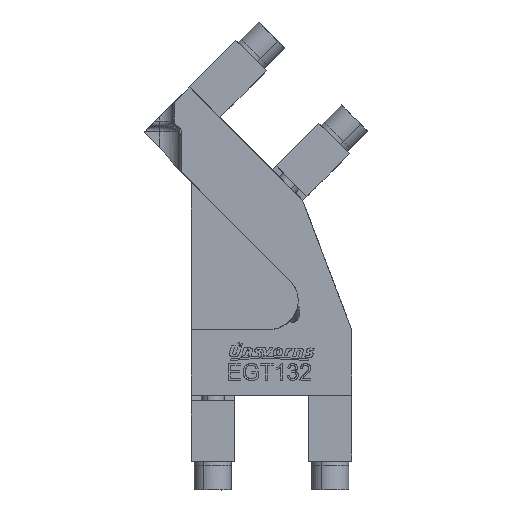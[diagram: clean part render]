
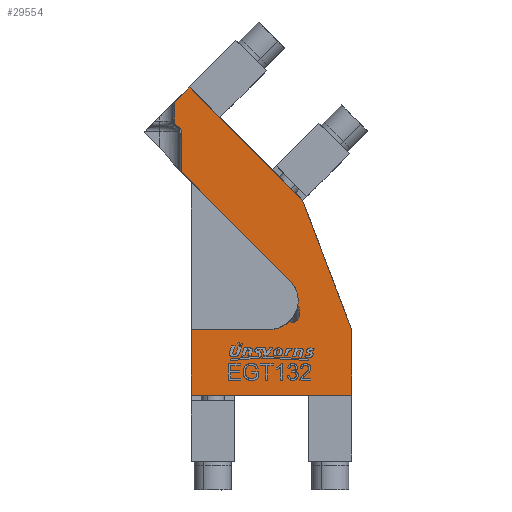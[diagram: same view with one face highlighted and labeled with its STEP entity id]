
A CAD part, left-side view. The second image highlights one B-rep face of the part: STEP entity #29554.
In plain terms, the highlighted planar face has unit normal (-1, 0, 0).
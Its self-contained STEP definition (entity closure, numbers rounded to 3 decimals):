
#27662=CARTESIAN_POINT('Vertex',(-29.,-6.457,40.071)) ;
#27665=CARTESIAN_POINT('Line Origine',(-29.,12.522,59.049)) ;
#27669=CARTESIAN_POINT('Vertex',(-29.,31.5,78.028)) ;
#29034=CARTESIAN_POINT('Vertex',(-29.,28.,0.)) ;
#29037=CARTESIAN_POINT('Line Origine',(-29.,28.,11.5)) ;
#29041=CARTESIAN_POINT('Vertex',(-29.,28.,23.)) ;
#29258=CARTESIAN_POINT('Vertex',(-29.,0.615,23.)) ;
#29261=CARTESIAN_POINT('Axis2P3D Location',(-29.,0.615,33.)) ;
#29265=CARTESIAN_POINT('Vertex',(-29.,-6.411,25.883)) ;
#29306=CARTESIAN_POINT('Vertex',(-29.,-9.261,31.426)) ;
#29309=CARTESIAN_POINT('Axis2P3D Location',(-29.,0.615,33.)) ;
#29432=CARTESIAN_POINT('Axis2P3D Location',(-29.,0.,0.)) ;
#29438=CARTESIAN_POINT('Control Point',(-29.,-8.679,25.949)) ;
#29439=CARTESIAN_POINT('Control Point',(-29.,-8.871,26.098)) ;
#29440=CARTESIAN_POINT('Control Point',(-29.,-9.045,26.271)) ;
#29441=CARTESIAN_POINT('Control Point',(-29.,-9.198,26.462)) ;
#29442=CARTESIAN_POINT('Control Point',(-29.,-9.555,27.004)) ;
#29443=CARTESIAN_POINT('Control Point',(-29.,-9.784,27.614)) ;
#29444=CARTESIAN_POINT('Control Point',(-29.,-9.882,28.007)) ;
#29445=CARTESIAN_POINT('Control Point',(-29.,-9.984,28.722)) ;
#29446=CARTESIAN_POINT('Control Point',(-29.,-9.954,29.442)) ;
#29447=CARTESIAN_POINT('Control Point',(-29.,-9.916,29.757)) ;
#29448=CARTESIAN_POINT('Control Point',(-29.,-9.804,30.298)) ;
#29449=CARTESIAN_POINT('Control Point',(-29.,-9.608,30.814)) ;
#29450=CARTESIAN_POINT('Control Point',(-29.,-9.509,31.028)) ;
#29451=CARTESIAN_POINT('Control Point',(-29.,-9.394,31.233)) ;
#29452=CARTESIAN_POINT('Control Point',(-29.,-9.261,31.426)) ;
#29453=CARTESIAN_POINT('Vertex',(-29.,-8.679,25.949)) ;
#29457=CARTESIAN_POINT('Control Point',(-29.,-6.411,25.883)) ;
#29458=CARTESIAN_POINT('Control Point',(-29.,-6.575,25.768)) ;
#29459=CARTESIAN_POINT('Control Point',(-29.,-6.752,25.672)) ;
#29460=CARTESIAN_POINT('Control Point',(-29.,-6.94,25.597)) ;
#29461=CARTESIAN_POINT('Control Point',(-29.,-7.33,25.503)) ;
#29462=CARTESIAN_POINT('Control Point',(-29.,-7.73,25.521)) ;
#29463=CARTESIAN_POINT('Control Point',(-29.,-7.925,25.559)) ;
#29464=CARTESIAN_POINT('Control Point',(-29.,-8.199,25.652)) ;
#29465=CARTESIAN_POINT('Control Point',(-29.,-8.452,25.791)) ;
#29466=CARTESIAN_POINT('Control Point',(-29.,-8.531,25.84)) ;
#29467=CARTESIAN_POINT('Control Point',(-29.,-8.606,25.893)) ;
#29468=CARTESIAN_POINT('Control Point',(-29.,-8.679,25.949)) ;
#29470=CARTESIAN_POINT('Line Origine',(-29.,14.307,23.)) ;
#29475=CARTESIAN_POINT('Line Origine',(-29.,0.,0.)) ;
#29479=CARTESIAN_POINT('Vertex',(-29.,-28.,0.)) ;
#29482=CARTESIAN_POINT('Line Origine',(-29.,-28.,11.5)) ;
#29486=CARTESIAN_POINT('Vertex',(-29.,-28.,23.)) ;
#29489=CARTESIAN_POINT('Line Origine',(-29.,-19.443,45.584)) ;
#29493=CARTESIAN_POINT('Vertex',(-29.,-10.886,68.168)) ;
#29496=CARTESIAN_POINT('Line Origine',(-29.,8.876,87.93)) ;
#29500=CARTESIAN_POINT('Vertex',(-29.,28.638,107.692)) ;
#29503=CARTESIAN_POINT('Line Origine',(-29.,31.319,105.011)) ;
#29507=CARTESIAN_POINT('Vertex',(-29.,34.,102.33)) ;
#29510=CARTESIAN_POINT('Line Origine',(-29.,34.,99.051)) ;
#29514=CARTESIAN_POINT('Vertex',(-29.,34.,95.772)) ;
#29517=CARTESIAN_POINT('Axis2P3D Location',(-29.,32.,95.772)) ;
#29521=CARTESIAN_POINT('Vertex',(-29.,32.75,93.918)) ;
#29524=CARTESIAN_POINT('Axis2P3D Location',(-29.,33.5,92.064)) ;
#29528=CARTESIAN_POINT('Vertex',(-29.,31.5,92.064)) ;
#29531=CARTESIAN_POINT('Line Origine',(-29.,31.5,85.046)) ;
#27666=DIRECTION('Vector Direction',(0.,-0.707,-0.707)) ;
#29038=DIRECTION('Vector Direction',(0.,0.,1.)) ;
#29262=DIRECTION('Axis2P3D Direction',(1.,0.,0.)) ;
#29310=DIRECTION('Axis2P3D Direction',(1.,0.,0.)) ;
#29433=DIRECTION('Axis2P3D Direction',(1.,0.,0.)) ;
#29434=DIRECTION('Axis2P3D XDirection',(0.,1.,0.)) ;
#29471=DIRECTION('Vector Direction',(0.,-1.,0.)) ;
#29476=DIRECTION('Vector Direction',(0.,1.,0.)) ;
#29483=DIRECTION('Vector Direction',(0.,0.,1.)) ;
#29490=DIRECTION('Vector Direction',(0.,-0.354,-0.935)) ;
#29497=DIRECTION('Vector Direction',(0.,-0.707,-0.707)) ;
#29504=DIRECTION('Vector Direction',(0.,-0.707,0.707)) ;
#29511=DIRECTION('Vector Direction',(0.,0.,-1.)) ;
#29518=DIRECTION('Axis2P3D Direction',(1.,0.,0.)) ;
#29525=DIRECTION('Axis2P3D Direction',(1.,0.,0.)) ;
#29532=DIRECTION('Vector Direction',(0.,0.,1.)) ;
#29263=AXIS2_PLACEMENT_3D('Circle Axis2P3D',#29261,#29262,$) ;
#29311=AXIS2_PLACEMENT_3D('Circle Axis2P3D',#29309,#29310,$) ;
#29435=AXIS2_PLACEMENT_3D('Plane Axis2P3D',#29432,#29433,#29434) ;
#29519=AXIS2_PLACEMENT_3D('Circle Axis2P3D',#29517,#29518,$) ;
#29526=AXIS2_PLACEMENT_3D('Circle Axis2P3D',#29524,#29525,$) ;
#29537=ORIENTED_EDGE('',*,*,#29455,.F.) ;
#29538=ORIENTED_EDGE('',*,*,#29469,.F.) ;
#29539=ORIENTED_EDGE('',*,*,#29267,.T.) ;
#29540=ORIENTED_EDGE('',*,*,#29474,.F.) ;
#29541=ORIENTED_EDGE('',*,*,#29043,.F.) ;
#29542=ORIENTED_EDGE('',*,*,#29481,.F.) ;
#29543=ORIENTED_EDGE('',*,*,#29488,.F.) ;
#29544=ORIENTED_EDGE('',*,*,#29495,.F.) ;
#29545=ORIENTED_EDGE('',*,*,#29502,.F.) ;
#29546=ORIENTED_EDGE('',*,*,#29509,.F.) ;
#29547=ORIENTED_EDGE('',*,*,#29516,.T.) ;
#29548=ORIENTED_EDGE('',*,*,#29523,.F.) ;
#29549=ORIENTED_EDGE('',*,*,#29530,.T.) ;
#29550=ORIENTED_EDGE('',*,*,#29535,.F.) ;
#29551=ORIENTED_EDGE('',*,*,#27671,.T.) ;
#29552=ORIENTED_EDGE('',*,*,#29313,.T.) ;
#27667=VECTOR('Line Direction',#27666,1.) ;
#29039=VECTOR('Line Direction',#29038,1.) ;
#29472=VECTOR('Line Direction',#29471,1.) ;
#29477=VECTOR('Line Direction',#29476,1.) ;
#29484=VECTOR('Line Direction',#29483,1.) ;
#29491=VECTOR('Line Direction',#29490,1.) ;
#29498=VECTOR('Line Direction',#29497,1.) ;
#29505=VECTOR('Line Direction',#29504,1.) ;
#29512=VECTOR('Line Direction',#29511,1.) ;
#29533=VECTOR('Line Direction',#29532,1.) ;
#29554=ADVANCED_FACE('EGT_132_rd30_30_L45_SIM_ET.1\\PartBody',(#29553),#29436,.F.) ;
#29437=B_SPLINE_CURVE_WITH_KNOTS('',5,(#29438,#29439,#29440,#29441,#29442,#29443,#29444,#29445,#29446,#29447,#29448,#29449,#29450,#29451,#29452),.UNSPECIFIED.,.F.,.U.,(6,3,3,3,6),(0.,1.724,4.573,6.813,8.473),.UNSPECIFIED.) ;
#29456=B_SPLINE_CURVE_WITH_KNOTS('',5,(#29457,#29458,#29459,#29460,#29461,#29462,#29463,#29464,#29465,#29466,#29467,#29468),.UNSPECIFIED.,.F.,.U.,(6,3,3,6),(0.,1.42,2.81,3.46),.UNSPECIFIED.) ;
#29264=CIRCLE('generated circle',#29263,10.) ;
#29312=CIRCLE('generated circle',#29311,10.) ;
#29520=CIRCLE('generated circle',#29519,2.) ;
#29527=CIRCLE('generated circle',#29526,2.) ;
#27671=EDGE_CURVE('',#27670,#27663,#27668,.T.) ;
#29043=EDGE_CURVE('',#29035,#29042,#29040,.T.) ;
#29267=EDGE_CURVE('',#29266,#29259,#29264,.T.) ;
#29313=EDGE_CURVE('',#27663,#29307,#29312,.T.) ;
#29455=EDGE_CURVE('',#29454,#29307,#29437,.T.) ;
#29469=EDGE_CURVE('',#29266,#29454,#29456,.T.) ;
#29474=EDGE_CURVE('',#29042,#29259,#29473,.T.) ;
#29481=EDGE_CURVE('',#29480,#29035,#29478,.T.) ;
#29488=EDGE_CURVE('',#29487,#29480,#29485,.F.) ;
#29495=EDGE_CURVE('',#29494,#29487,#29492,.T.) ;
#29502=EDGE_CURVE('',#29501,#29494,#29499,.T.) ;
#29509=EDGE_CURVE('',#29508,#29501,#29506,.T.) ;
#29516=EDGE_CURVE('',#29508,#29515,#29513,.T.) ;
#29523=EDGE_CURVE('',#29522,#29515,#29520,.T.) ;
#29530=EDGE_CURVE('',#29522,#29529,#29527,.T.) ;
#29535=EDGE_CURVE('',#27670,#29529,#29534,.T.) ;
#29536=EDGE_LOOP('',(#29537,#29538,#29539,#29540,#29541,#29542,#29543,#29544,#29545,#29546,#29547,#29548,#29549,#29550,#29551,#29552)) ;
#29553=FACE_OUTER_BOUND('',#29536,.T.) ;
#27668=LINE('Line',#27665,#27667) ;
#29040=LINE('Line',#29037,#29039) ;
#29473=LINE('Line',#29470,#29472) ;
#29478=LINE('Line',#29475,#29477) ;
#29485=LINE('Line',#29482,#29484) ;
#29492=LINE('Line',#29489,#29491) ;
#29499=LINE('Line',#29496,#29498) ;
#29506=LINE('Line',#29503,#29505) ;
#29513=LINE('Line',#29510,#29512) ;
#29534=LINE('Line',#29531,#29533) ;
#29436=PLANE('',#29435) ;
#27663=VERTEX_POINT('',#27662) ;
#27670=VERTEX_POINT('',#27669) ;
#29035=VERTEX_POINT('',#29034) ;
#29042=VERTEX_POINT('',#29041) ;
#29259=VERTEX_POINT('',#29258) ;
#29266=VERTEX_POINT('',#29265) ;
#29307=VERTEX_POINT('',#29306) ;
#29454=VERTEX_POINT('',#29453) ;
#29480=VERTEX_POINT('',#29479) ;
#29487=VERTEX_POINT('',#29486) ;
#29494=VERTEX_POINT('',#29493) ;
#29501=VERTEX_POINT('',#29500) ;
#29508=VERTEX_POINT('',#29507) ;
#29515=VERTEX_POINT('',#29514) ;
#29522=VERTEX_POINT('',#29521) ;
#29529=VERTEX_POINT('',#29528) ;
